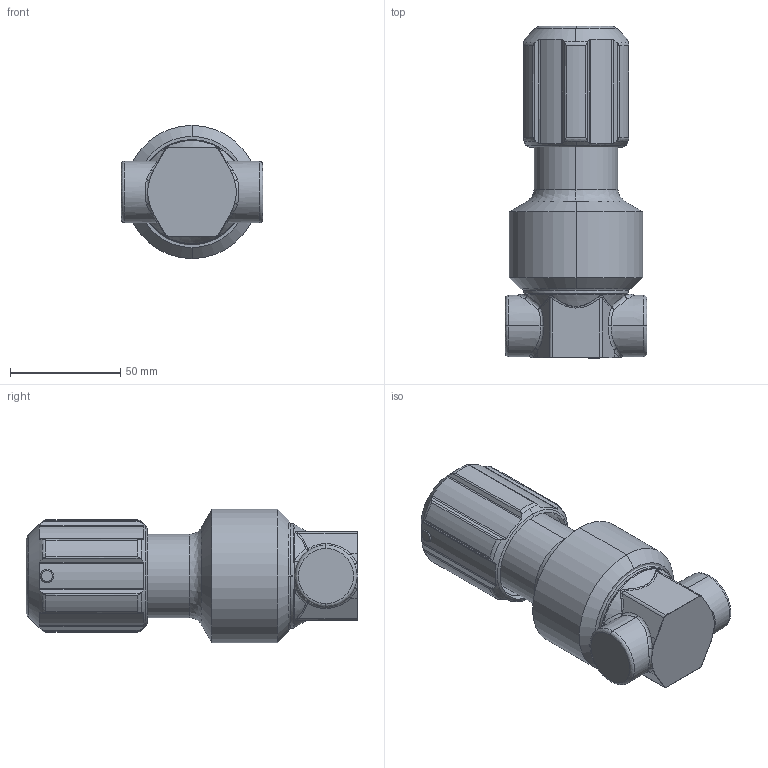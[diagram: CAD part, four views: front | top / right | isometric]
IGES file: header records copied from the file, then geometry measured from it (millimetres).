
Start section:  PTC IGES file: 234268-en-e.igs
Global section: file name: 234268-en-e.igs; native system: Creo Parametric by PTC Inc.; preprocessor: 2019030; author: qusrh3; organization: Unknown; date: 20191231.155855; units: inch
Bounding box: 64.3 x 150.66 x 60.5 mm (x, y, z)
Surface area: 41445.2 mm2 (no closed solid volume)
Topology: 0 solids, 0 shells, 182 faces, 888 edges, 888 vertices
Faces by surface type: revolution 124, bspline 58
